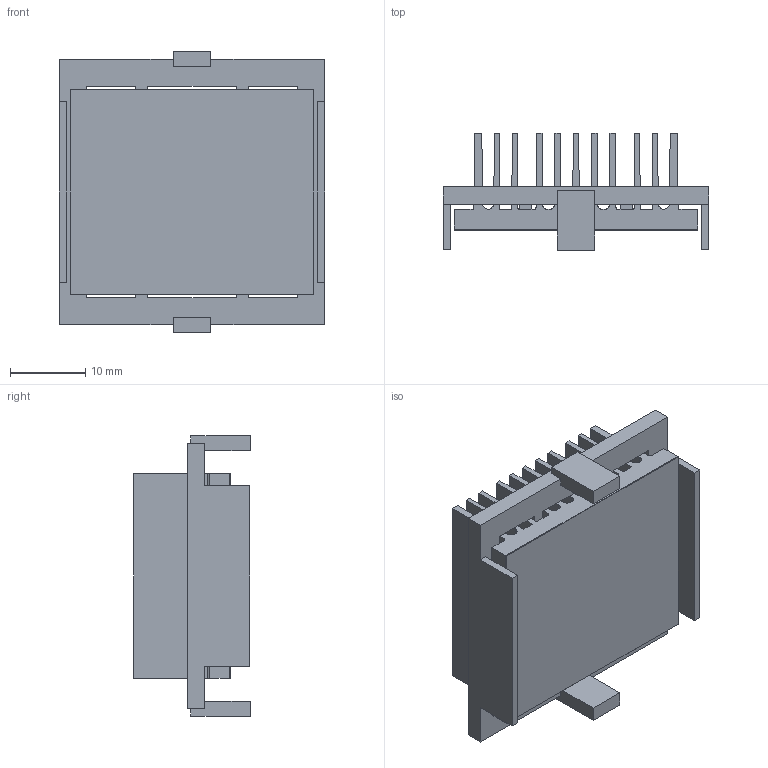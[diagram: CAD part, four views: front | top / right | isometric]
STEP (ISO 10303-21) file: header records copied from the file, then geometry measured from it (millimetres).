
FILE_DESCRIPTION (( 'STEP AP214' ), '1' );
FILE_NAME ('INH33001-12.7-2.6K33.STEP', '2023-02-17T18:07:04', ( '' ), ( '' ), 'SwSTEP 2.0', 'SolidWorks 2020', '' );
FILE_SCHEMA (( 'AUTOMOTIVE_DESIGN' ));
Length unit declared in the file: millimetre
Products named in the file (1): INH33001-12.7-2.6K33
Bounding box: 35.2 x 15.5 x 37.2 mm (x, y, z)
Volume: 6470.5 mm3; surface area: 12397.2 mm2
Topology: 3 solids, 3 shells, 126 faces, 360 edges, 240 vertices
Faces by surface type: plane 108, cylinder 18
Entity records: 5502 total; most frequent: CARTESIAN_POINT 727, ORIENTED_EDGE 720, DIRECTION 650, EDGE_CURVE 360, VECTOR 324, LINE 324, VERTEX_POINT 240, AXIS2_PLACEMENT_3D 163
